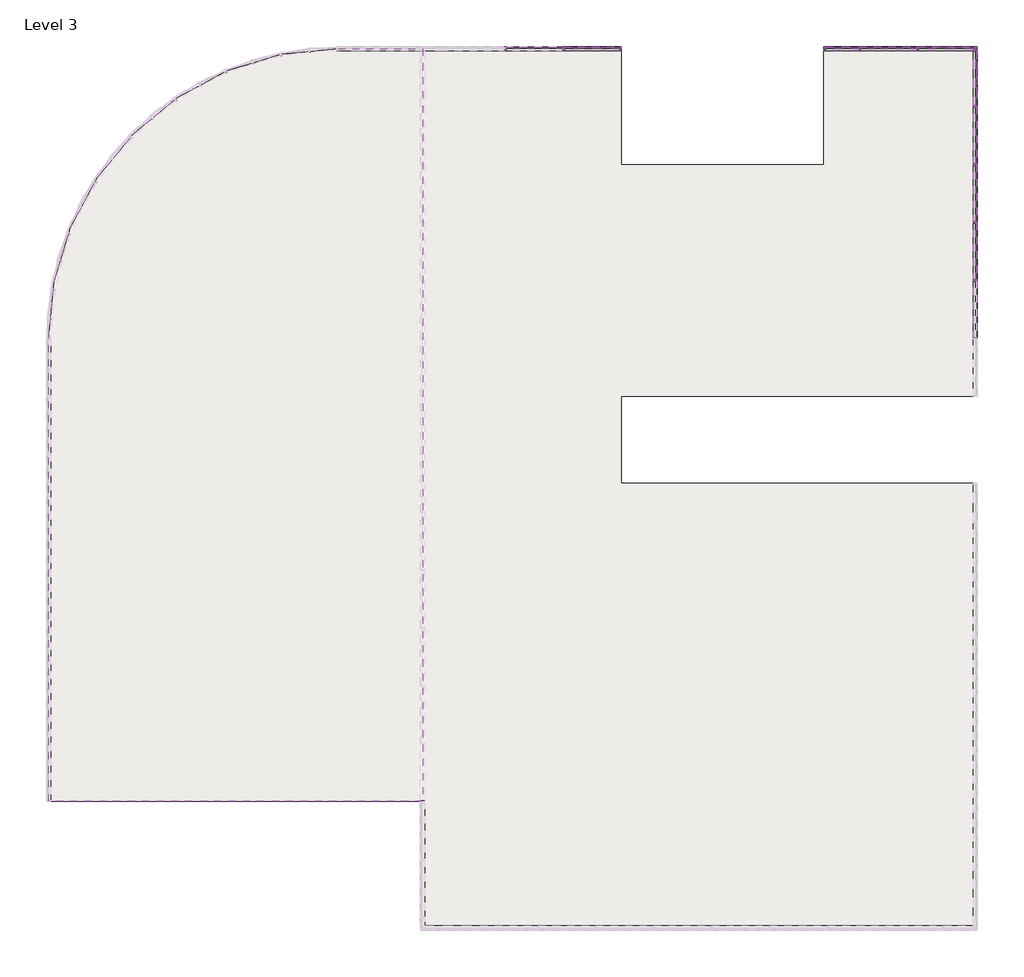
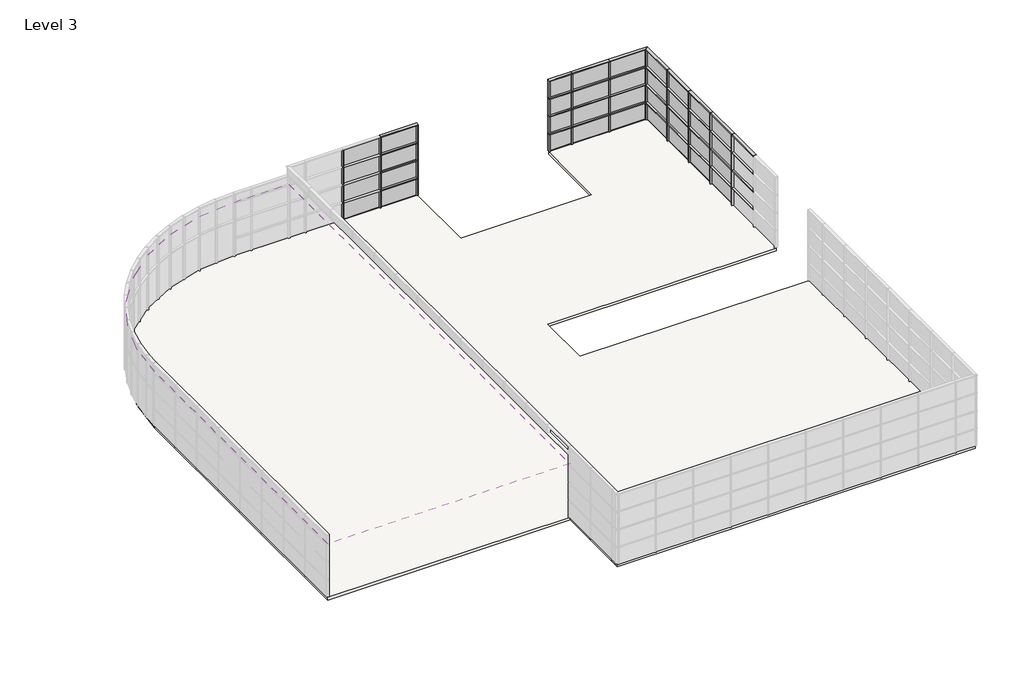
# One storey, part 6 of 6: 84 members, 36 plates, 1 roof, 1 slab.
"""IFC4 building model written with IfcOpenShell, lengths in millimetres."""

from ifc_helpers import new_model, si_unit, point, frame, frame_2d, origin, place, context, project, spatial, polyline, circle_curve, trimmed, segment, composite_curve, outline, extrude, transform, mapped, element, save
from components import rectangular_mullion_50_x_150mm_a053b0ca, rectangular_mullion_50_x_150mm_3a148f0f, rectangular_mullion_50_x_150mm_12a430f9, rectangular_mullion_50_x_150mm_11a594ce, rectangular_mullion_50_x_150mm_6b24f785, rectangular_mullion_50_x_150mm_947845bb, system_panel_glazed_751a585c, system_panel_glazed_08de6f5f, system_panel_glazed_892a108f

model = new_model("IFC4")

# Units and contexts
model_context = context("Model", 3, world=origin())
ifc_project = project(units=[si_unit("LENGTHUNIT", "METRE", prefix="MILLI")], contexts=[model_context])

# Site, building, storey
site = spatial("IfcSite", under=ifc_project)
building = spatial("IfcBuilding", under=site)
storey = spatial("IfcBuildingStorey", under=building, Name="Level 3", Elevation=8000.0)

# Members
placement = place(None, origin())
rectangular_mullion_50_x_150mm_shape = rectangular_mullion_50_x_150mm_a053b0ca(model_context)
element("IfcMember", 1, ObjectType="Rectangular Mullion : 50 x 150mm", at=placement, inside=storey, context=model_context, shape_type="MappedRepresentation", body=[
    mapped(rectangular_mullion_50_x_150mm_shape, transform((-2721.580781, 8375.9839566, 8025.0), x_axis=(-1.0, 0.0, 0.0), y_axis=(0.0, 1.0, 0.0), z_axis=(0.0, 0.0, -1.0))),
])
element("IfcMember", 2, ObjectType="Rectangular Mullion : 50 x 150mm", at=placement, inside=storey, context=model_context, shape_type="MappedRepresentation", body=[
    mapped(rectangular_mullion_50_x_150mm_shape, transform((-2721.580781, 8375.9839566, 9025.0), x_axis=(-1.0, 0.0, 0.0), y_axis=(0.0, 1.0, 0.0), z_axis=(0.0, 0.0, -0.9999999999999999))),
])
element("IfcMember", 3, ObjectType="Rectangular Mullion : 50 x 150mm", at=placement, inside=storey, context=model_context, shape_type="MappedRepresentation", body=[
    mapped(rectangular_mullion_50_x_150mm_shape, transform((-2721.580781, 8375.9839566, 10025.0), x_axis=(-1.0, 0.0, 0.0), y_axis=(0.0, 1.0, 0.0), z_axis=(0.0, 0.0, -1.0))),
])
element("IfcMember", 4, ObjectType="Rectangular Mullion : 50 x 150mm", at=placement, inside=storey, context=model_context, shape_type="MappedRepresentation", body=[
    mapped(rectangular_mullion_50_x_150mm_shape, transform((-2721.580781, 8375.9839566, 11025.0), x_axis=(-1.0, 0.0, 0.0), y_axis=(0.0, 1.0, 0.0), z_axis=(0.0, 0.0, -1.0))),
])
element("IfcMember", 5, ObjectType="Rectangular Mullion : 50 x 150mm", at=placement, inside=storey, context=model_context, shape_type="MappedRepresentation", body=[
    mapped(rectangular_mullion_50_x_150mm_shape, transform((-721.580781, 8375.9839566, 8025.0), x_axis=(-1.0, 0.0, 0.0), y_axis=(0.0, 1.0, 0.0), z_axis=(0.0, 0.0, -1.0))),
])
element("IfcMember", 6, ObjectType="Rectangular Mullion : 50 x 150mm", at=placement, inside=storey, context=model_context, shape_type="MappedRepresentation", body=[
    mapped(rectangular_mullion_50_x_150mm_shape, transform((-721.580781, 8375.9839566, 9025.0), x_axis=(-1.0, 0.0, 0.0), y_axis=(0.0, 1.0, 0.0), z_axis=(0.0, 0.0, -0.9999999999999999))),
])
element("IfcMember", 7, ObjectType="Rectangular Mullion : 50 x 150mm", at=placement, inside=storey, context=model_context, shape_type="MappedRepresentation", body=[
    mapped(rectangular_mullion_50_x_150mm_shape, transform((-721.580781, 8375.9839566, 10025.0), x_axis=(-1.0, 0.0, 0.0), y_axis=(0.0, 1.0, 0.0), z_axis=(0.0, 0.0, -1.0))),
])
element("IfcMember", 8, ObjectType="Rectangular Mullion : 50 x 150mm", at=placement, inside=storey, context=model_context, shape_type="MappedRepresentation", body=[
    mapped(rectangular_mullion_50_x_150mm_shape, transform((-721.580781, 8375.9839566, 11025.0), x_axis=(-1.0, 0.0, 0.0), y_axis=(0.0, 1.0, 0.0), z_axis=(0.0, 0.0, -1.0))),
])
element("IfcMember", 9, ObjectType="Rectangular Mullion : 50 x 150mm", at=placement, inside=storey, context=model_context, shape_type="MappedRepresentation", body=[
    mapped(rectangular_mullion_50_x_150mm_shape, transform((9503.2660975, 8375.9839566, 11025.0), x_axis=(-1.0, 0.0, 0.0), y_axis=(0.0, 1.0, 0.0), z_axis=(0.0, 0.0, -1.0))),
])
element("IfcMember", 10, ObjectType="Rectangular Mullion : 50 x 150mm", at=placement, inside=storey, context=model_context, shape_type="MappedRepresentation", body=[
    mapped(rectangular_mullion_50_x_150mm_shape, transform((11503.2660975, 8375.9839566, 8025.0), x_axis=(-1.0, 0.0, 0.0), y_axis=(0.0, 1.0, 0.0), z_axis=(0.0, 0.0, -1.0))),
])
element("IfcMember", 11, ObjectType="Rectangular Mullion : 50 x 150mm", at=placement, inside=storey, context=model_context, shape_type="MappedRepresentation", body=[
    mapped(rectangular_mullion_50_x_150mm_shape, transform((9503.2660975, 8375.9839566, 8025.0), x_axis=(-1.0, 0.0, 0.0), y_axis=(0.0, 1.0, 0.0), z_axis=(0.0, 0.0, -0.9999999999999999))),
])
element("IfcMember", 12, ObjectType="Rectangular Mullion : 50 x 150mm", at=placement, inside=storey, context=model_context, shape_type="MappedRepresentation", body=[
    mapped(rectangular_mullion_50_x_150mm_shape, transform((9503.2660975, 8375.9839566, 9025.0), x_axis=(-1.0, 0.0, 0.0), y_axis=(0.0, 1.0, 0.0), z_axis=(0.0, 0.0, -1.0))),
])
element("IfcMember", 13, ObjectType="Rectangular Mullion : 50 x 150mm", at=placement, inside=storey, context=model_context, shape_type="MappedRepresentation", body=[
    mapped(rectangular_mullion_50_x_150mm_shape, transform((9503.2660975, 8375.9839566, 10025.0), x_axis=(-1.0, 0.0, 0.0), y_axis=(0.0, 1.0, 0.0), z_axis=(0.0, 0.0, -0.9999999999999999))),
])
element("IfcMember", 14, ObjectType="Rectangular Mullion : 50 x 150mm", at=placement, inside=storey, context=model_context, shape_type="MappedRepresentation", body=[
    mapped(rectangular_mullion_50_x_150mm_shape, transform((11503.2660975, 8375.9839566, 9025.0), x_axis=(-1.0, 0.0, 0.0), y_axis=(0.0, 1.0, 0.0), z_axis=(0.0, 0.0, -1.0))),
])
element("IfcMember", 15, ObjectType="Rectangular Mullion : 50 x 150mm", at=placement, inside=storey, context=model_context, shape_type="MappedRepresentation", body=[
    mapped(rectangular_mullion_50_x_150mm_shape, transform((11503.2660975, 8375.9839566, 10025.0), x_axis=(-1.0, 0.0, 0.0), y_axis=(0.0, 1.0, 0.0), z_axis=(0.0, 0.0, -1.0))),
])
element("IfcMember", 16, ObjectType="Rectangular Mullion : 50 x 150mm", at=placement, inside=storey, context=model_context, shape_type="MappedRepresentation", body=[
    mapped(rectangular_mullion_50_x_150mm_shape, transform((11503.2660975, 8375.9839566, 11025.0), x_axis=(-1.0, 0.0, 0.0), y_axis=(0.0, 1.0, 0.0), z_axis=(0.0, 0.0, -0.9999999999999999))),
])
element("IfcMember", 17, ObjectType="Rectangular Mullion : 50 x 150mm", at=placement, inside=storey, context=model_context, shape_type="MappedRepresentation", body=[
    mapped(rectangular_mullion_50_x_150mm_shape, transform((13503.2660975, 2375.9839566, 8025.0), x_axis=(0.0, 1.0, 0.0), y_axis=(1.0, 0.0, 0.0), z_axis=(0.0, 0.0, -1.0))),
])
element("IfcMember", 18, ObjectType="Rectangular Mullion : 50 x 150mm", at=placement, inside=storey, context=model_context, shape_type="MappedRepresentation", body=[
    mapped(rectangular_mullion_50_x_150mm_shape, transform((13503.2660975, 2375.9839566, 9025.0), x_axis=(0.0, 1.0, 0.0), y_axis=(1.0, 0.0, 0.0), z_axis=(0.0, 0.0, -1.0))),
])
element("IfcMember", 19, ObjectType="Rectangular Mullion : 50 x 150mm", at=placement, inside=storey, context=model_context, shape_type="MappedRepresentation", body=[
    mapped(rectangular_mullion_50_x_150mm_shape, transform((13503.2660975, 2375.9839566, 10025.0), x_axis=(0.0, 1.0, 0.0), y_axis=(1.0, 0.0, 0.0), z_axis=(0.0, 0.0, -1.0))),
])
element("IfcMember", 20, ObjectType="Rectangular Mullion : 50 x 150mm", at=placement, inside=storey, context=model_context, shape_type="MappedRepresentation", body=[
    mapped(rectangular_mullion_50_x_150mm_shape, transform((13503.2660975, 2375.9839566, 11025.0), x_axis=(0.0, 1.0, 0.0), y_axis=(1.0, 0.0, 0.0), z_axis=(0.0, 0.0, -0.9999999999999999))),
])
element("IfcMember", 21, ObjectType="Rectangular Mullion : 50 x 150mm", at=placement, inside=storey, context=model_context, shape_type="MappedRepresentation", body=[
    mapped(rectangular_mullion_50_x_150mm_shape, transform((13503.2660975, 4375.9839566, 8025.0), x_axis=(0.0, 1.0, 0.0), y_axis=(1.0, 0.0, 0.0), z_axis=(0.0, 0.0, -1.0))),
])
element("IfcMember", 22, ObjectType="Rectangular Mullion : 50 x 150mm", at=placement, inside=storey, context=model_context, shape_type="MappedRepresentation", body=[
    mapped(rectangular_mullion_50_x_150mm_shape, transform((13503.2660975, 4375.9839566, 9025.0), x_axis=(0.0, 1.0, 0.0), y_axis=(1.0, 0.0, 0.0), z_axis=(0.0, 0.0, -0.9999999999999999))),
])
element("IfcMember", 23, ObjectType="Rectangular Mullion : 50 x 150mm", at=placement, inside=storey, context=model_context, shape_type="MappedRepresentation", body=[
    mapped(rectangular_mullion_50_x_150mm_shape, transform((13503.2660975, 4375.9839566, 10025.0), x_axis=(0.0, 1.0, 0.0), y_axis=(1.0, 0.0, 0.0), z_axis=(0.0, 0.0, -1.0))),
])
element("IfcMember", 24, ObjectType="Rectangular Mullion : 50 x 150mm", at=placement, inside=storey, context=model_context, shape_type="MappedRepresentation", body=[
    mapped(rectangular_mullion_50_x_150mm_shape, transform((13503.2660975, 4375.9839566, 11025.0), x_axis=(0.0, 1.0, 0.0), y_axis=(1.0, 0.0, 0.0), z_axis=(0.0, 0.0, -0.9999999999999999))),
])
element("IfcMember", 25, ObjectType="Rectangular Mullion : 50 x 150mm", at=placement, inside=storey, context=model_context, shape_type="MappedRepresentation", body=[
    mapped(rectangular_mullion_50_x_150mm_shape, transform((13503.2660975, 6375.9839566, 8025.0), x_axis=(0.0, 1.0, 0.0), y_axis=(1.0, 0.0, 0.0), z_axis=(0.0, 0.0, -1.0))),
])
element("IfcMember", 26, ObjectType="Rectangular Mullion : 50 x 150mm", at=placement, inside=storey, context=model_context, shape_type="MappedRepresentation", body=[
    mapped(rectangular_mullion_50_x_150mm_shape, transform((13503.2660975, 6375.9839566, 9025.0), x_axis=(0.0, 1.0, 0.0), y_axis=(1.0, 0.0, 0.0), z_axis=(0.0, 0.0, -0.9999999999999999))),
])
element("IfcMember", 27, ObjectType="Rectangular Mullion : 50 x 150mm", at=placement, inside=storey, context=model_context, shape_type="MappedRepresentation", body=[
    mapped(rectangular_mullion_50_x_150mm_shape, transform((13503.2660975, 6375.9839566, 10025.0), x_axis=(0.0, 1.0, 0.0), y_axis=(1.0, 0.0, 0.0), z_axis=(0.0, 0.0, -1.0))),
])
element("IfcMember", 28, ObjectType="Rectangular Mullion : 50 x 150mm", at=placement, inside=storey, context=model_context, shape_type="MappedRepresentation", body=[
    mapped(rectangular_mullion_50_x_150mm_shape, transform((13503.2660975, 6375.9839566, 11025.0), x_axis=(0.0, 1.0, 0.0), y_axis=(1.0, 0.0, 0.0), z_axis=(0.0, 0.0, -0.9999999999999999))),
])
element("IfcMember", 29, ObjectType="Rectangular Mullion : 50 x 150mm", at=placement, inside=storey, context=model_context, shape_type="MappedRepresentation", body=[
    mapped(rectangular_mullion_50_x_150mm_shape, transform((13503.2660975, 375.9839566, 8025.0), x_axis=(0.0, 1.0, 0.0), y_axis=(1.0, 0.0, 0.0), z_axis=(0.0, 0.0, -1.0))),
])
element("IfcMember", 30, ObjectType="Rectangular Mullion : 50 x 150mm", at=placement, inside=storey, context=model_context, shape_type="MappedRepresentation", body=[
    mapped(rectangular_mullion_50_x_150mm_shape, transform((13503.2660975, 375.9839566, 9025.0), x_axis=(0.0, 1.0, 0.0), y_axis=(1.0, 0.0, 0.0), z_axis=(0.0, 0.0, -1.0))),
])
element("IfcMember", 31, ObjectType="Rectangular Mullion : 50 x 150mm", at=placement, inside=storey, context=model_context, shape_type="MappedRepresentation", body=[
    mapped(rectangular_mullion_50_x_150mm_shape, transform((13503.2660975, 375.9839566, 10025.0), x_axis=(0.0, 1.0, 0.0), y_axis=(1.0, 0.0, 0.0), z_axis=(0.0, 0.0, -1.0))),
])
element("IfcMember", 32, ObjectType="Rectangular Mullion : 50 x 150mm", at=placement, inside=storey, context=model_context, shape_type="MappedRepresentation", body=[
    mapped(rectangular_mullion_50_x_150mm_shape, transform((13503.2660975, 375.9839566, 11025.0), x_axis=(0.0, 1.0, 0.0), y_axis=(1.0, 0.0, 0.0), z_axis=(0.0, 0.0, -1.0))),
])
rectangular_mullion_50_x_150mm_2_shape = rectangular_mullion_50_x_150mm_3a148f0f(model_context)
element("IfcMember", 33, ObjectType="Rectangular Mullion : 50 x 150mm", at=placement, inside=storey, context=model_context, shape_type="MappedRepresentation", body=[
    mapped(rectangular_mullion_50_x_150mm_2_shape, transform((-721.580781, 8375.9839566, 9000.0), x_axis=(0.0, 0.0, 1.0), y_axis=(0.0, 1.0, 0.0), z_axis=(-1.0, 0.0, 0.0))),
])
element("IfcMember", 34, ObjectType="Rectangular Mullion : 50 x 150mm", at=placement, inside=storey, context=model_context, shape_type="MappedRepresentation", body=[
    mapped(rectangular_mullion_50_x_150mm_2_shape, transform((-721.580781, 8375.9839566, 10000.0), x_axis=(0.0, 0.0, 1.0), y_axis=(0.0, 1.0, 0.0), z_axis=(-1.0, 0.0, 0.0))),
])
element("IfcMember", 35, ObjectType="Rectangular Mullion : 50 x 150mm", at=placement, inside=storey, context=model_context, shape_type="MappedRepresentation", body=[
    mapped(rectangular_mullion_50_x_150mm_2_shape, transform((-721.580781, 8375.9839566, 11000.0), x_axis=(0.0, 0.0, 1.0), y_axis=(0.0, 1.0, 0.0), z_axis=(-1.0, 0.0, 0.0))),
])
element("IfcMember", 36, ObjectType="Rectangular Mullion : 50 x 150mm", at=placement, inside=storey, context=model_context, shape_type="MappedRepresentation", body=[
    mapped(rectangular_mullion_50_x_150mm_2_shape, transform((-721.580781, 8375.9839566, 12000.0), x_axis=(0.0, 0.0, 1.0), y_axis=(0.0, 1.0, 0.0), z_axis=(-1.0, 0.0, 0.0))),
])
element("IfcMember", 37, ObjectType="Rectangular Mullion : 50 x 150mm", at=placement, inside=storey, context=model_context, shape_type="MappedRepresentation", body=[
    mapped(rectangular_mullion_50_x_150mm_2_shape, transform((9503.2660975, 8375.9839566, 9000.0), x_axis=(0.0, 0.0, 1.0), y_axis=(0.0, 1.0, 0.0), z_axis=(-1.0, 0.0, 0.0))),
])
element("IfcMember", 38, ObjectType="Rectangular Mullion : 50 x 150mm", at=placement, inside=storey, context=model_context, shape_type="MappedRepresentation", body=[
    mapped(rectangular_mullion_50_x_150mm_2_shape, transform((9503.2660975, 8375.9839566, 10000.0), x_axis=(0.0, 0.0, 1.0), y_axis=(0.0, 1.0, 0.0), z_axis=(-1.0, 0.0, 0.0))),
])
element("IfcMember", 39, ObjectType="Rectangular Mullion : 50 x 150mm", at=placement, inside=storey, context=model_context, shape_type="MappedRepresentation", body=[
    mapped(rectangular_mullion_50_x_150mm_2_shape, transform((9503.2660975, 8375.9839566, 11000.0), x_axis=(0.0, 0.0, 1.0), y_axis=(0.0, 1.0, 0.0), z_axis=(-1.0, 0.0, 0.0))),
])
element("IfcMember", 40, ObjectType="Rectangular Mullion : 50 x 150mm", at=placement, inside=storey, context=model_context, shape_type="MappedRepresentation", body=[
    mapped(rectangular_mullion_50_x_150mm_2_shape, transform((9503.2660975, 8375.9839566, 12000.0), x_axis=(0.0, 0.0, 1.0), y_axis=(0.0, 1.0, 0.0), z_axis=(-1.0, 0.0, 0.0))),
])
element("IfcMember", 41, ObjectType="Rectangular Mullion : 50 x 150mm", at=placement, inside=storey, context=model_context, shape_type="MappedRepresentation", body=[
    mapped(rectangular_mullion_50_x_150mm_2_shape, transform((13503.2660975, 375.9839566, 9000.0), x_axis=(0.0, 0.0, 1.0), y_axis=(1.0, 0.0, 0.0), z_axis=(0.0, 0.9999999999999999, 0.0))),
])
element("IfcMember", 42, ObjectType="Rectangular Mullion : 50 x 150mm", at=placement, inside=storey, context=model_context, shape_type="MappedRepresentation", body=[
    mapped(rectangular_mullion_50_x_150mm_2_shape, transform((13503.2660975, 2375.9839566, 9000.0), x_axis=(0.0, 0.0, 1.0), y_axis=(1.0, 0.0, 0.0), z_axis=(0.0, 1.0, 0.0))),
])
element("IfcMember", 43, ObjectType="Rectangular Mullion : 50 x 150mm", at=placement, inside=storey, context=model_context, shape_type="MappedRepresentation", body=[
    mapped(rectangular_mullion_50_x_150mm_2_shape, transform((13503.2660975, 4375.9839566, 9000.0), x_axis=(0.0, 0.0, 1.0), y_axis=(1.0, 0.0, 0.0), z_axis=(0.0, 1.0, 0.0))),
])
element("IfcMember", 44, ObjectType="Rectangular Mullion : 50 x 150mm", at=placement, inside=storey, context=model_context, shape_type="MappedRepresentation", body=[
    mapped(rectangular_mullion_50_x_150mm_2_shape, transform((13503.2660975, 6375.9839566, 9000.0), x_axis=(0.0, 0.0, 1.0), y_axis=(1.0, 0.0, 0.0), z_axis=(0.0, 1.0, 0.0))),
])
element("IfcMember", 45, ObjectType="Rectangular Mullion : 50 x 150mm", at=placement, inside=storey, context=model_context, shape_type="MappedRepresentation", body=[
    mapped(rectangular_mullion_50_x_150mm_2_shape, transform((13503.2660975, 375.9839566, 10000.0), x_axis=(0.0, 0.0, 1.0), y_axis=(1.0, 0.0, 0.0), z_axis=(0.0, 0.9999999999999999, 0.0))),
])
element("IfcMember", 46, ObjectType="Rectangular Mullion : 50 x 150mm", at=placement, inside=storey, context=model_context, shape_type="MappedRepresentation", body=[
    mapped(rectangular_mullion_50_x_150mm_2_shape, transform((13503.2660975, 2375.9839566, 10000.0), x_axis=(0.0, 0.0, 1.0), y_axis=(1.0, 0.0, 0.0), z_axis=(0.0, 1.0, 0.0))),
])
element("IfcMember", 47, ObjectType="Rectangular Mullion : 50 x 150mm", at=placement, inside=storey, context=model_context, shape_type="MappedRepresentation", body=[
    mapped(rectangular_mullion_50_x_150mm_2_shape, transform((13503.2660975, 4375.9839566, 10000.0), x_axis=(0.0, 0.0, 1.0), y_axis=(1.0, 0.0, 0.0), z_axis=(0.0, 1.0, 0.0))),
])
element("IfcMember", 48, ObjectType="Rectangular Mullion : 50 x 150mm", at=placement, inside=storey, context=model_context, shape_type="MappedRepresentation", body=[
    mapped(rectangular_mullion_50_x_150mm_2_shape, transform((13503.2660975, 6375.9839566, 10000.0), x_axis=(0.0, 0.0, 1.0), y_axis=(1.0, 0.0, 0.0), z_axis=(0.0, 1.0, 0.0))),
])
element("IfcMember", 49, ObjectType="Rectangular Mullion : 50 x 150mm", at=placement, inside=storey, context=model_context, shape_type="MappedRepresentation", body=[
    mapped(rectangular_mullion_50_x_150mm_2_shape, transform((13503.2660975, 375.9839566, 11000.0), x_axis=(0.0, 0.0, 1.0), y_axis=(1.0, 0.0, 0.0), z_axis=(0.0, 0.9999999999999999, 0.0))),
])
element("IfcMember", 50, ObjectType="Rectangular Mullion : 50 x 150mm", at=placement, inside=storey, context=model_context, shape_type="MappedRepresentation", body=[
    mapped(rectangular_mullion_50_x_150mm_2_shape, transform((13503.2660975, 2375.9839566, 11000.0), x_axis=(0.0, 0.0, 1.0), y_axis=(1.0, 0.0, 0.0), z_axis=(0.0, 1.0, 0.0))),
])
element("IfcMember", 51, ObjectType="Rectangular Mullion : 50 x 150mm", at=placement, inside=storey, context=model_context, shape_type="MappedRepresentation", body=[
    mapped(rectangular_mullion_50_x_150mm_2_shape, transform((13503.2660975, 4375.9839566, 11000.0), x_axis=(0.0, 0.0, 1.0), y_axis=(1.0, 0.0, 0.0), z_axis=(0.0, 1.0, 0.0))),
])
element("IfcMember", 52, ObjectType="Rectangular Mullion : 50 x 150mm", at=placement, inside=storey, context=model_context, shape_type="MappedRepresentation", body=[
    mapped(rectangular_mullion_50_x_150mm_2_shape, transform((13503.2660975, 6375.9839566, 11000.0), x_axis=(0.0, 0.0, 1.0), y_axis=(1.0, 0.0, 0.0), z_axis=(0.0, 1.0, 0.0))),
])
element("IfcMember", 53, ObjectType="Rectangular Mullion : 50 x 150mm", at=placement, inside=storey, context=model_context, shape_type="MappedRepresentation", body=[
    mapped(rectangular_mullion_50_x_150mm_2_shape, transform((13503.2660975, 375.9839566, 12000.0), x_axis=(0.0, 0.0, 1.0), y_axis=(1.0, 0.0, 0.0), z_axis=(0.0, 0.9999999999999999, 0.0))),
])
element("IfcMember", 54, ObjectType="Rectangular Mullion : 50 x 150mm", at=placement, inside=storey, context=model_context, shape_type="MappedRepresentation", body=[
    mapped(rectangular_mullion_50_x_150mm_2_shape, transform((13503.2660975, 2375.9839566, 12000.0), x_axis=(0.0, 0.0, 1.0), y_axis=(1.0, 0.0, 0.0), z_axis=(0.0, 1.0, 0.0))),
])
element("IfcMember", 55, ObjectType="Rectangular Mullion : 50 x 150mm", at=placement, inside=storey, context=model_context, shape_type="MappedRepresentation", body=[
    mapped(rectangular_mullion_50_x_150mm_2_shape, transform((13503.2660975, 4375.9839566, 12000.0), x_axis=(0.0, 0.0, 1.0), y_axis=(1.0, 0.0, 0.0), z_axis=(0.0, 1.0, 0.0))),
])
element("IfcMember", 56, ObjectType="Rectangular Mullion : 50 x 150mm", at=placement, inside=storey, context=model_context, shape_type="MappedRepresentation", body=[
    mapped(rectangular_mullion_50_x_150mm_2_shape, transform((13503.2660975, 6375.9839566, 12000.0), x_axis=(0.0, 0.0, 1.0), y_axis=(1.0, 0.0, 0.0), z_axis=(0.0, 1.0, 0.0))),
])
rectangular_mullion_50_x_150mm_3_shape = rectangular_mullion_50_x_150mm_12a430f9(model_context)
element("IfcMember", 57, ObjectType="Rectangular Mullion : 50 x 150mm", at=placement, inside=storey, context=model_context, shape_type="MappedRepresentation", body=[
    mapped(rectangular_mullion_50_x_150mm_3_shape, transform((1278.419219, 8375.9839566, 8975.0), x_axis=(1.0, 0.0, 0.0), y_axis=(0.0, 1.0, 0.0), z_axis=(0.0, 0.0, 1.0))),
])
element("IfcMember", 58, ObjectType="Rectangular Mullion : 50 x 150mm", at=placement, inside=storey, context=model_context, shape_type="MappedRepresentation", body=[
    mapped(rectangular_mullion_50_x_150mm_3_shape, transform((1278.419219, 8375.9839566, 9975.0), x_axis=(1.0, 0.0, 0.0), y_axis=(0.0, 1.0, 0.0), z_axis=(0.0, 0.0, 1.0))),
])
element("IfcMember", 59, ObjectType="Rectangular Mullion : 50 x 150mm", at=placement, inside=storey, context=model_context, shape_type="MappedRepresentation", body=[
    mapped(rectangular_mullion_50_x_150mm_3_shape, transform((1278.419219, 8375.9839566, 10975.0), x_axis=(1.0, 0.0, 0.0), y_axis=(0.0, 1.0, 0.0), z_axis=(0.0, 0.0, 1.0))),
])
element("IfcMember", 60, ObjectType="Rectangular Mullion : 50 x 150mm", at=placement, inside=storey, context=model_context, shape_type="MappedRepresentation", body=[
    mapped(rectangular_mullion_50_x_150mm_3_shape, transform((1278.419219, 8375.9839566, 11975.0), x_axis=(1.0, 0.0, 0.0), y_axis=(0.0, 1.0, 0.0), z_axis=(0.0, 0.0, 1.0))),
])
element("IfcMember", 61, ObjectType="Rectangular Mullion : 50 x 150mm", at=placement, inside=storey, context=model_context, shape_type="MappedRepresentation", body=[
    mapped(rectangular_mullion_50_x_150mm_3_shape, transform((13503.2660975, 8375.9839566, 8975.0), x_axis=(1.0, 0.0, 0.0), y_axis=(0.0, 1.0, 0.0), z_axis=(0.0, 0.0, 1.0))),
])
element("IfcMember", 62, ObjectType="Rectangular Mullion : 50 x 150mm", at=placement, inside=storey, context=model_context, shape_type="MappedRepresentation", body=[
    mapped(rectangular_mullion_50_x_150mm_3_shape, transform((13503.2660975, 8375.9839566, 9975.0), x_axis=(1.0, 0.0, 0.0), y_axis=(0.0, 1.0, 0.0), z_axis=(0.0, 0.0, 1.0))),
])
element("IfcMember", 63, ObjectType="Rectangular Mullion : 50 x 150mm", at=placement, inside=storey, context=model_context, shape_type="MappedRepresentation", body=[
    mapped(rectangular_mullion_50_x_150mm_3_shape, transform((13503.2660975, 8375.9839566, 10975.0), x_axis=(1.0, 0.0, 0.0), y_axis=(0.0, 1.0, 0.0), z_axis=(0.0, 0.0, 1.0))),
])
element("IfcMember", 64, ObjectType="Rectangular Mullion : 50 x 150mm", at=placement, inside=storey, context=model_context, shape_type="MappedRepresentation", body=[
    mapped(rectangular_mullion_50_x_150mm_3_shape, transform((13503.2660975, 8375.9839566, 11975.0), x_axis=(1.0, 0.0, 0.0), y_axis=(0.0, 1.0, 0.0), z_axis=(0.0, 0.0, 1.0))),
])
element("IfcMember", 65, ObjectType="Rectangular Mullion : 50 x 150mm", at=placement, inside=storey, context=model_context, shape_type="MappedRepresentation", body=[
    mapped(rectangular_mullion_50_x_150mm_3_shape, transform((8278.419219, 8375.9839566, 8025.0), x_axis=(-1.0, 0.0, 0.0), y_axis=(0.0, 1.0, 0.0), z_axis=(0.0, 0.0, -1.0))),
])
element("IfcMember", 66, ObjectType="Rectangular Mullion : 50 x 150mm", at=placement, inside=storey, context=model_context, shape_type="MappedRepresentation", body=[
    mapped(rectangular_mullion_50_x_150mm_3_shape, transform((8278.419219, 8375.9839566, 9025.0), x_axis=(-1.0, 0.0, 0.0), y_axis=(0.0, 1.0, 0.0), z_axis=(0.0, 0.0, -1.0))),
])
element("IfcMember", 67, ObjectType="Rectangular Mullion : 50 x 150mm", at=placement, inside=storey, context=model_context, shape_type="MappedRepresentation", body=[
    mapped(rectangular_mullion_50_x_150mm_3_shape, transform((8278.419219, 8375.9839566, 10025.0), x_axis=(-1.0, 0.0, 0.0), y_axis=(0.0, 1.0, 0.0), z_axis=(0.0, 0.0, -1.0))),
])
element("IfcMember", 68, ObjectType="Rectangular Mullion : 50 x 150mm", at=placement, inside=storey, context=model_context, shape_type="MappedRepresentation", body=[
    mapped(rectangular_mullion_50_x_150mm_3_shape, transform((8278.419219, 8375.9839566, 11025.0), x_axis=(-1.0, 0.0, 0.0), y_axis=(0.0, 1.0, 0.0), z_axis=(0.0, 0.0, -1.0))),
])
element("IfcMember", 69, ObjectType="Rectangular Mullion : 50 x 150mm", at=placement, inside=storey, context=model_context, shape_type="MappedRepresentation", body=[
    mapped(rectangular_mullion_50_x_150mm_3_shape, transform((13503.2660975, 8375.9839566, 8025.0), x_axis=(0.0, 1.0, 0.0), y_axis=(1.0, 0.0, 0.0), z_axis=(0.0, 0.0, -1.0))),
])
element("IfcMember", 70, ObjectType="Rectangular Mullion : 50 x 150mm", at=placement, inside=storey, context=model_context, shape_type="MappedRepresentation", body=[
    mapped(rectangular_mullion_50_x_150mm_3_shape, transform((13503.2660975, 8375.9839566, 9025.0), x_axis=(0.0, 1.0, 0.0), y_axis=(1.0, 0.0, 0.0), z_axis=(0.0, 0.0, -1.0))),
])
element("IfcMember", 71, ObjectType="Rectangular Mullion : 50 x 150mm", at=placement, inside=storey, context=model_context, shape_type="MappedRepresentation", body=[
    mapped(rectangular_mullion_50_x_150mm_3_shape, transform((13503.2660975, 8375.9839566, 10025.0), x_axis=(0.0, 1.0, 0.0), y_axis=(1.0, 0.0, 0.0), z_axis=(0.0, 0.0, -1.0))),
])
element("IfcMember", 72, ObjectType="Rectangular Mullion : 50 x 150mm", at=placement, inside=storey, context=model_context, shape_type="MappedRepresentation", body=[
    mapped(rectangular_mullion_50_x_150mm_3_shape, transform((13503.2660975, 8375.9839566, 11025.0), x_axis=(0.0, 1.0, 0.0), y_axis=(1.0, 0.0, 0.0), z_axis=(0.0, 0.0, -1.0))),
])
rectangular_mullion_50_x_150mm_4_shape = rectangular_mullion_50_x_150mm_11a594ce(model_context)
element("IfcMember", 73, ObjectType="Rectangular Mullion : 50 x 150mm", at=placement, inside=storey, context=model_context, shape_type="MappedRepresentation", body=[
    mapped(rectangular_mullion_50_x_150mm_4_shape, transform((8278.419219, 8375.9839566, 9000.0), x_axis=(0.0, 0.0, 1.0), y_axis=(0.0, 1.0, 0.0), z_axis=(-1.0, 0.0, 0.0))),
])
element("IfcMember", 74, ObjectType="Rectangular Mullion : 50 x 150mm", at=placement, inside=storey, context=model_context, shape_type="MappedRepresentation", body=[
    mapped(rectangular_mullion_50_x_150mm_4_shape, transform((8278.419219, 8375.9839566, 10000.0), x_axis=(0.0, 0.0, 1.0), y_axis=(0.0, 1.0, 0.0), z_axis=(-1.0, 0.0, 0.0))),
])
element("IfcMember", 75, ObjectType="Rectangular Mullion : 50 x 150mm", at=placement, inside=storey, context=model_context, shape_type="MappedRepresentation", body=[
    mapped(rectangular_mullion_50_x_150mm_4_shape, transform((8278.419219, 8375.9839566, 11000.0), x_axis=(0.0, 0.0, 1.0), y_axis=(0.0, 1.0, 0.0), z_axis=(-1.0, 0.0, 0.0))),
])
element("IfcMember", 76, ObjectType="Rectangular Mullion : 50 x 150mm", at=placement, inside=storey, context=model_context, shape_type="MappedRepresentation", body=[
    mapped(rectangular_mullion_50_x_150mm_4_shape, transform((8278.419219, 8375.9839566, 12000.0), x_axis=(0.0, 0.0, 1.0), y_axis=(0.0, 1.0, 0.0), z_axis=(-1.0, 0.0, 0.0))),
])
rectangular_mullion_50_x_150mm_5_shape = rectangular_mullion_50_x_150mm_6b24f785(model_context)
element("IfcMember", 77, ObjectType="Rectangular Mullion : 50 x 150mm", at=placement, inside=storey, context=model_context, shape_type="MappedRepresentation", body=[
    mapped(rectangular_mullion_50_x_150mm_5_shape, transform((13503.2660975, 8375.9839566, 9000.0), x_axis=(0.0, 0.0, 1.0), y_axis=(1.0, 0.0, 0.0), z_axis=(0.0, 0.9999999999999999, 0.0))),
])
element("IfcMember", 78, ObjectType="Rectangular Mullion : 50 x 150mm", at=placement, inside=storey, context=model_context, shape_type="MappedRepresentation", body=[
    mapped(rectangular_mullion_50_x_150mm_5_shape, transform((13503.2660975, 8375.9839566, 10000.0), x_axis=(0.0, 0.0, 1.0), y_axis=(1.0, 0.0, 0.0), z_axis=(0.0, 0.9999999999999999, 0.0))),
])
element("IfcMember", 79, ObjectType="Rectangular Mullion : 50 x 150mm", at=placement, inside=storey, context=model_context, shape_type="MappedRepresentation", body=[
    mapped(rectangular_mullion_50_x_150mm_5_shape, transform((13503.2660975, 8375.9839566, 11000.0), x_axis=(0.0, 0.0, 1.0), y_axis=(1.0, 0.0, 0.0), z_axis=(0.0, 0.9999999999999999, 0.0))),
])
element("IfcMember", 80, ObjectType="Rectangular Mullion : 50 x 150mm", at=placement, inside=storey, context=model_context, shape_type="MappedRepresentation", body=[
    mapped(rectangular_mullion_50_x_150mm_5_shape, transform((13503.2660975, 8375.9839566, 12000.0), x_axis=(0.0, 0.0, 1.0), y_axis=(1.0, 0.0, 0.0), z_axis=(0.0, 0.9999999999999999, 0.0))),
])
rectangular_mullion_50_x_150mm_6_shape = rectangular_mullion_50_x_150mm_947845bb(model_context)
element("IfcMember", 81, ObjectType="Rectangular Mullion : 50 x 150mm", at=placement, inside=storey, context=model_context, shape_type="MappedRepresentation", body=[
    mapped(rectangular_mullion_50_x_150mm_6_shape, transform((11503.2660975, 8375.9839566, 9000.0), x_axis=(0.0, 0.0, 1.0), y_axis=(0.0, 1.0, 0.0), z_axis=(-1.0, 0.0, 0.0))),
])
element("IfcMember", 82, ObjectType="Rectangular Mullion : 50 x 150mm", at=placement, inside=storey, context=model_context, shape_type="MappedRepresentation", body=[
    mapped(rectangular_mullion_50_x_150mm_6_shape, transform((11503.2660975, 8375.9839566, 10000.0), x_axis=(0.0, 0.0, 1.0), y_axis=(0.0, 1.0, 0.0), z_axis=(-1.0, 0.0, 0.0))),
])
element("IfcMember", 83, ObjectType="Rectangular Mullion : 50 x 150mm", at=placement, inside=storey, context=model_context, shape_type="MappedRepresentation", body=[
    mapped(rectangular_mullion_50_x_150mm_6_shape, transform((11503.2660975, 8375.9839566, 11000.0), x_axis=(0.0, 0.0, 1.0), y_axis=(0.0, 1.0, 0.0), z_axis=(-1.0, 0.0, 0.0))),
])
element("IfcMember", 84, ObjectType="Rectangular Mullion : 50 x 150mm", at=placement, inside=storey, context=model_context, shape_type="MappedRepresentation", body=[
    mapped(rectangular_mullion_50_x_150mm_6_shape, transform((11503.2660975, 8375.9839566, 12000.0), x_axis=(0.0, 0.0, 1.0), y_axis=(0.0, 1.0, 0.0), z_axis=(-1.0, 0.0, 0.0))),
])

# Plates
system_panel_glazed_shape = system_panel_glazed_751a585c(model_context)
element("IfcPlate", 85, ObjectType="System Panel : Glazed", at=placement, inside=storey, context=model_context, shape_type="MappedRepresentation", body=[
    mapped(system_panel_glazed_shape, transform((13503.2660975, 6400.9839566, 8500.0), x_axis=(0.0, 0.0, 1.0), y_axis=(1.0, 0.0, 0.0), z_axis=(0.0, 1.0, 0.0))),
])
element("IfcPlate", 86, ObjectType="System Panel : Glazed", at=placement, inside=storey, context=model_context, shape_type="MappedRepresentation", body=[
    mapped(system_panel_glazed_shape, transform((13503.2660975, 6400.9839566, 9500.0), x_axis=(0.0, 0.0, 1.0), y_axis=(1.0, 0.0, 0.0), z_axis=(0.0, 1.0, 0.0))),
])
element("IfcPlate", 87, ObjectType="System Panel : Glazed", at=placement, inside=storey, context=model_context, shape_type="MappedRepresentation", body=[
    mapped(system_panel_glazed_shape, transform((13453.2660975, 8375.9839566, 8500.0), x_axis=(0.0, 0.0, 1.0), y_axis=(0.0, 1.0, 0.0), z_axis=(-1.0, 0.0, 0.0))),
])
element("IfcPlate", 88, ObjectType="System Panel : Glazed", at=placement, inside=storey, context=model_context, shape_type="MappedRepresentation", body=[
    mapped(system_panel_glazed_shape, transform((13453.2660975, 8375.9839566, 9500.0), x_axis=(0.0, 0.0, 1.0), y_axis=(0.0, 1.0, 0.0), z_axis=(-1.0, 0.0, 0.0))),
])
element("IfcPlate", 89, ObjectType="System Panel : Glazed", at=placement, inside=storey, context=model_context, shape_type="MappedRepresentation", body=[
    mapped(system_panel_glazed_shape, transform((1228.419219, 8375.9839566, 8500.0), x_axis=(0.0, 0.0, 1.0), y_axis=(0.0, 1.0, 0.0), z_axis=(-1.0, 0.0, 0.0))),
])
element("IfcPlate", 90, ObjectType="System Panel : Glazed", at=placement, inside=storey, context=model_context, shape_type="MappedRepresentation", body=[
    mapped(system_panel_glazed_shape, transform((1228.419219, 8375.9839566, 9500.0), x_axis=(0.0, 0.0, 1.0), y_axis=(0.0, 1.0, 0.0), z_axis=(-1.0, 0.0, 0.0))),
])
element("IfcPlate", 91, ObjectType="System Panel : Glazed", at=placement, inside=storey, context=model_context, shape_type="MappedRepresentation", body=[
    mapped(system_panel_glazed_shape, transform((13503.2660975, 6400.9839566, 10500.0), x_axis=(0.0, 0.0, 1.0), y_axis=(1.0, 0.0, 0.0), z_axis=(0.0, 1.0, 0.0))),
])
element("IfcPlate", 92, ObjectType="System Panel : Glazed", at=placement, inside=storey, context=model_context, shape_type="MappedRepresentation", body=[
    mapped(system_panel_glazed_shape, transform((13503.2660975, 6400.9839566, 11500.0), x_axis=(0.0, 0.0, 1.0), y_axis=(1.0, 0.0, 0.0), z_axis=(0.0, 1.0, 0.0))),
])
element("IfcPlate", 93, ObjectType="System Panel : Glazed", at=placement, inside=storey, context=model_context, shape_type="MappedRepresentation", body=[
    mapped(system_panel_glazed_shape, transform((13453.2660975, 8375.9839566, 10500.0), x_axis=(0.0, 0.0, 1.0), y_axis=(0.0, 1.0, 0.0), z_axis=(-1.0, 0.0, 0.0))),
])
element("IfcPlate", 94, ObjectType="System Panel : Glazed", at=placement, inside=storey, context=model_context, shape_type="MappedRepresentation", body=[
    mapped(system_panel_glazed_shape, transform((13453.2660975, 8375.9839566, 11500.0), x_axis=(0.0, 0.0, 1.0), y_axis=(0.0, 1.0, 0.0), z_axis=(-1.0, 0.0, 0.0))),
])
element("IfcPlate", 95, ObjectType="System Panel : Glazed", at=placement, inside=storey, context=model_context, shape_type="MappedRepresentation", body=[
    mapped(system_panel_glazed_shape, transform((1228.419219, 8375.9839566, 10500.0), x_axis=(0.0, 0.0, 1.0), y_axis=(0.0, 1.0, 0.0), z_axis=(-1.0, 0.0, 0.0))),
])
element("IfcPlate", 96, ObjectType="System Panel : Glazed", at=placement, inside=storey, context=model_context, shape_type="MappedRepresentation", body=[
    mapped(system_panel_glazed_shape, transform((1228.419219, 8375.9839566, 11500.0), x_axis=(0.0, 0.0, 1.0), y_axis=(0.0, 1.0, 0.0), z_axis=(-1.0, 0.0, 0.0))),
])
system_panel_glazed_2_shape = system_panel_glazed_08de6f5f(model_context)
element("IfcPlate", 97, ObjectType="System Panel : Glazed", at=placement, inside=storey, context=model_context, shape_type="MappedRepresentation", body=[
    mapped(system_panel_glazed_2_shape, transform((13503.2660975, 400.9839566, 8500.0), x_axis=(0.0, 0.0, 1.0), y_axis=(1.0, 0.0, 0.0), z_axis=(0.0, 1.0, 0.0))),
])
element("IfcPlate", 98, ObjectType="System Panel : Glazed", at=placement, inside=storey, context=model_context, shape_type="MappedRepresentation", body=[
    mapped(system_panel_glazed_2_shape, transform((13503.2660975, 400.9839566, 9500.0), x_axis=(0.0, 0.0, 1.0), y_axis=(1.0, 0.0, 0.0), z_axis=(0.0, 1.0, 0.0))),
])
element("IfcPlate", 99, ObjectType="System Panel : Glazed", at=placement, inside=storey, context=model_context, shape_type="MappedRepresentation", body=[
    mapped(system_panel_glazed_2_shape, transform((13503.2660975, 2400.9839566, 8500.0), x_axis=(0.0, 0.0, 1.0), y_axis=(1.0, 0.0, 0.0), z_axis=(0.0, 1.0, 0.0))),
])
element("IfcPlate", 100, ObjectType="System Panel : Glazed", at=placement, inside=storey, context=model_context, shape_type="MappedRepresentation", body=[
    mapped(system_panel_glazed_2_shape, transform((13503.2660975, 2400.9839566, 9500.0), x_axis=(0.0, 0.0, 1.0), y_axis=(1.0, 0.0, 0.0), z_axis=(0.0, 1.0, 0.0))),
])
element("IfcPlate", 101, ObjectType="System Panel : Glazed", at=placement, inside=storey, context=model_context, shape_type="MappedRepresentation", body=[
    mapped(system_panel_glazed_2_shape, transform((13503.2660975, 4400.9839566, 8500.0), x_axis=(0.0, 0.0, 1.0), y_axis=(1.0, 0.0, 0.0), z_axis=(0.0, 1.0, 0.0))),
])
element("IfcPlate", 102, ObjectType="System Panel : Glazed", at=placement, inside=storey, context=model_context, shape_type="MappedRepresentation", body=[
    mapped(system_panel_glazed_2_shape, transform((13503.2660975, 4400.9839566, 9500.0), x_axis=(0.0, 0.0, 1.0), y_axis=(1.0, 0.0, 0.0), z_axis=(0.0, 1.0, 0.0))),
])
element("IfcPlate", 103, ObjectType="System Panel : Glazed", at=placement, inside=storey, context=model_context, shape_type="MappedRepresentation", body=[
    mapped(system_panel_glazed_2_shape, transform((11478.2660975, 8375.9839566, 8500.0), x_axis=(0.0, 0.0, 1.0), y_axis=(0.0, 1.0, 0.0), z_axis=(-1.0, 0.0, 0.0))),
])
element("IfcPlate", 104, ObjectType="System Panel : Glazed", at=placement, inside=storey, context=model_context, shape_type="MappedRepresentation", body=[
    mapped(system_panel_glazed_2_shape, transform((11478.2660975, 8375.9839566, 9500.0), x_axis=(0.0, 0.0, 1.0), y_axis=(0.0, 1.0, 0.0), z_axis=(-1.0, 0.0, 0.0))),
])
element("IfcPlate", 105, ObjectType="System Panel : Glazed", at=placement, inside=storey, context=model_context, shape_type="MappedRepresentation", body=[
    mapped(system_panel_glazed_2_shape, transform((-746.580781, 8375.9839566, 8500.0), x_axis=(0.0, 0.0, 1.0), y_axis=(0.0, 1.0, 0.0), z_axis=(-1.0, 0.0, 0.0))),
])
element("IfcPlate", 106, ObjectType="System Panel : Glazed", at=placement, inside=storey, context=model_context, shape_type="MappedRepresentation", body=[
    mapped(system_panel_glazed_2_shape, transform((-746.580781, 8375.9839566, 9500.0), x_axis=(0.0, 0.0, 1.0), y_axis=(0.0, 1.0, 0.0), z_axis=(-1.0, 0.0, 0.0))),
])
element("IfcPlate", 107, ObjectType="System Panel : Glazed", at=placement, inside=storey, context=model_context, shape_type="MappedRepresentation", body=[
    mapped(system_panel_glazed_2_shape, transform((13503.2660975, 400.9839566, 10500.0), x_axis=(0.0, 0.0, 1.0), y_axis=(1.0, 0.0, 0.0), z_axis=(0.0, 1.0, 0.0))),
])
element("IfcPlate", 108, ObjectType="System Panel : Glazed", at=placement, inside=storey, context=model_context, shape_type="MappedRepresentation", body=[
    mapped(system_panel_glazed_2_shape, transform((13503.2660975, 2400.9839566, 10500.0), x_axis=(0.0, 0.0, 1.0), y_axis=(1.0, 0.0, 0.0), z_axis=(0.0, 1.0, 0.0))),
])
element("IfcPlate", 109, ObjectType="System Panel : Glazed", at=placement, inside=storey, context=model_context, shape_type="MappedRepresentation", body=[
    mapped(system_panel_glazed_2_shape, transform((13503.2660975, 4400.9839566, 10500.0), x_axis=(0.0, 0.0, 1.0), y_axis=(1.0, 0.0, 0.0), z_axis=(0.0, 1.0, 0.0))),
])
element("IfcPlate", 110, ObjectType="System Panel : Glazed", at=placement, inside=storey, context=model_context, shape_type="MappedRepresentation", body=[
    mapped(system_panel_glazed_2_shape, transform((13503.2660975, 400.9839566, 11500.0), x_axis=(0.0, 0.0, 1.0), y_axis=(1.0, 0.0, 0.0), z_axis=(0.0, 1.0, 0.0))),
])
element("IfcPlate", 111, ObjectType="System Panel : Glazed", at=placement, inside=storey, context=model_context, shape_type="MappedRepresentation", body=[
    mapped(system_panel_glazed_2_shape, transform((13503.2660975, 2400.9839566, 11500.0), x_axis=(0.0, 0.0, 1.0), y_axis=(1.0, 0.0, 0.0), z_axis=(0.0, 1.0, 0.0))),
])
element("IfcPlate", 112, ObjectType="System Panel : Glazed", at=placement, inside=storey, context=model_context, shape_type="MappedRepresentation", body=[
    mapped(system_panel_glazed_2_shape, transform((13503.2660975, 4400.9839566, 11500.0), x_axis=(0.0, 0.0, 1.0), y_axis=(1.0, 0.0, 0.0), z_axis=(0.0, 1.0, 0.0))),
])
element("IfcPlate", 113, ObjectType="System Panel : Glazed", at=placement, inside=storey, context=model_context, shape_type="MappedRepresentation", body=[
    mapped(system_panel_glazed_2_shape, transform((11478.2660975, 8375.9839566, 10500.0), x_axis=(0.0, 0.0, 1.0), y_axis=(0.0, 1.0, 0.0), z_axis=(-1.0, 0.0, 0.0))),
])
element("IfcPlate", 114, ObjectType="System Panel : Glazed", at=placement, inside=storey, context=model_context, shape_type="MappedRepresentation", body=[
    mapped(system_panel_glazed_2_shape, transform((11478.2660975, 8375.9839566, 11500.0), x_axis=(0.0, 0.0, 1.0), y_axis=(0.0, 1.0, 0.0), z_axis=(-1.0, 0.0, 0.0))),
])
element("IfcPlate", 115, ObjectType="System Panel : Glazed", at=placement, inside=storey, context=model_context, shape_type="MappedRepresentation", body=[
    mapped(system_panel_glazed_2_shape, transform((-746.580781, 8375.9839566, 10500.0), x_axis=(0.0, 0.0, 1.0), y_axis=(0.0, 1.0, 0.0), z_axis=(-1.0, 0.0, 0.0))),
])
element("IfcPlate", 116, ObjectType="System Panel : Glazed", at=placement, inside=storey, context=model_context, shape_type="MappedRepresentation", body=[
    mapped(system_panel_glazed_2_shape, transform((-746.580781, 8375.9839566, 11500.0), x_axis=(0.0, 0.0, 1.0), y_axis=(0.0, 1.0, 0.0), z_axis=(-1.0, 0.0, 0.0))),
])
system_panel_glazed_3_shape = system_panel_glazed_892a108f(model_context)
element("IfcPlate", 117, ObjectType="System Panel : Glazed", at=placement, inside=storey, context=model_context, shape_type="MappedRepresentation", body=[
    mapped(system_panel_glazed_3_shape, transform((9478.2660975, 8375.9839566, 8500.0), x_axis=(0.0, 0.0, 1.0), y_axis=(0.0, 1.0, 0.0), z_axis=(-1.0, 0.0, 0.0))),
])
element("IfcPlate", 118, ObjectType="System Panel : Glazed", at=placement, inside=storey, context=model_context, shape_type="MappedRepresentation", body=[
    mapped(system_panel_glazed_3_shape, transform((9478.2660975, 8375.9839566, 9500.0), x_axis=(0.0, 0.0, 1.0), y_axis=(0.0, 1.0, 0.0), z_axis=(-1.0, 0.0, 0.0))),
])
element("IfcPlate", 119, ObjectType="System Panel : Glazed", at=placement, inside=storey, context=model_context, shape_type="MappedRepresentation", body=[
    mapped(system_panel_glazed_3_shape, transform((9478.2660975, 8375.9839566, 10500.0), x_axis=(0.0, 0.0, 1.0), y_axis=(0.0, 1.0, 0.0), z_axis=(-1.0, 0.0, 0.0))),
])
element("IfcPlate", 120, ObjectType="System Panel : Glazed", at=placement, inside=storey, context=model_context, shape_type="MappedRepresentation", body=[
    mapped(system_panel_glazed_3_shape, transform((9478.2660975, 8375.9839566, 11500.0), x_axis=(0.0, 0.0, 1.0), y_axis=(0.0, 1.0, 0.0), z_axis=(-1.0, 0.0, 0.0))),
])

# Roof
element("IfcRoof", 121, ObjectType="Steel Bar Joist - Steel Deck - EPDM Membrane", at=placement, inside=storey, context=model_context, shape_type="SweptSolid", body=[
    extrude(outline(composite_curve([segment(polyline([(-5587.173406, -17621.30803), (-18496.7339025, -17621.30803), (-18496.7339025, -1624.0160434)]), True, "CONTINUOUS"), segment(trimmed(circle_curve(frame_2d((-8496.7339025, -1624.0160434)), 10000.0), [point((-18496.7339025, -1624.0160434))], [point((-8496.7339025, 8375.9839566))], False, "CARTESIAN"), True, "CONTINUOUS"), segment(polyline([(-8496.7339025, 8375.9839566), (-5587.173406, 8375.9839566), (-5587.173406, -17621.30803)]), True, "CONTINUOUS")], self_intersect=False)), frame((0.0, 0.0, 11025.2574105), z_axis=(0.0, 0.0, 1.0), x_axis=(1.0, 0.0, 0.0)), (0.0, 0.0, 1.0), 505.0),
])

# Slab
element("IfcSlab", 122, ObjectType="Generic 150mm", at=placement, inside=storey, context=model_context, shape_type="SweptSolid", body=[
    extrude(outline(composite_curve([segment(trimmed(circle_curve(frame_2d((-8496.7339025, -1624.0160434)), 10000.0), [point((-18496.7339025, -1624.0160434))], [point((-8496.7339025, 8375.9839566))], False, "CARTESIAN"), True, "CONTINUOUS"), segment(polyline([(-8496.7339025, 8375.9839566), (-5587.173406, 8375.9839566), (1278.419219, 8375.9839566), (1278.419219, 4375.9839566), (8278.419219, 4375.9839566), (8278.419219, 8375.9839566), (13503.2660975, 8375.9839566), (13503.2660975, -3624.0160434), (1278.419219, -3624.0160434), (1278.419219, -6624.0160434), (13503.2660975, -6624.0160434), (13503.2660975, -21988.7417365), (-5587.173406, -21988.7417365), (-5587.173406, -17621.30803), (-18496.7339025, -17621.30803), (-18496.7339025, -1624.0160434)]), True, "CONTINUOUS")], self_intersect=False)), frame((0.0, 0.0, 7850.0), z_axis=(0.0, 0.0, 1.0), x_axis=(1.0, 0.0, 0.0)), (0.0, 0.0, 1.0), 150.0),
])

save(model, "model.ifc")
